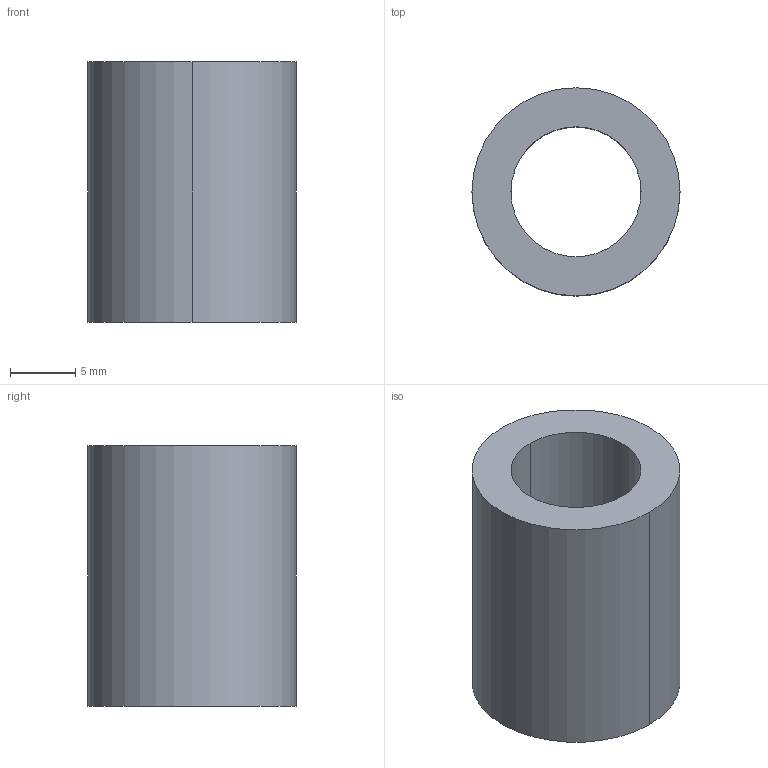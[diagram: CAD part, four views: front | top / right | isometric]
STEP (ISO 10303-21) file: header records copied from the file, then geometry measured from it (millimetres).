
FILE_DESCRIPTION(/* description */ (''),/* implementation_level */ '2;1');
FILE_NAME(/* name */ '3d_tgbz10-20_00327_r00.stp',/* time_stamp */ '2011-01-10T14:09:03+09:00',/* author */ ('MISUMI'),/* organization */ (''),/* preprocessor_version */ 'ST-DEVELOPER v11',/* originating_system */ 'UGS - NX 5.0',/* authorisation */ '');
FILE_SCHEMA (('CONFIG_CONTROL_DESIGN'));
Length unit declared in the file: millimetre
Products named in the file (1): 3d_tgbz10-20_00327_r00
Bounding box: 16 x 16 x 20 mm (x, y, z)
Volume: 2450.4 mm3; surface area: 1878.7 mm2
Topology: 1 solids, 1 shells, 6 faces, 12 edges, 8 vertices
Faces by surface type: cylinder 4, plane 2
Entity records: 254 total; most frequent: DIRECTION 34, CARTESIAN_POINT 27, ORIENTED_EDGE 24, AXIS2_PLACEMENT_3D 15, EDGE_CURVE 12, EDGE_LOOP 8, CIRCLE 8, VERTEX_POINT 8
